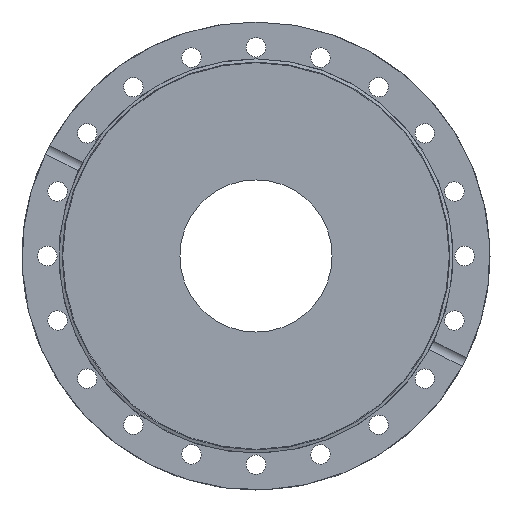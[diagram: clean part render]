
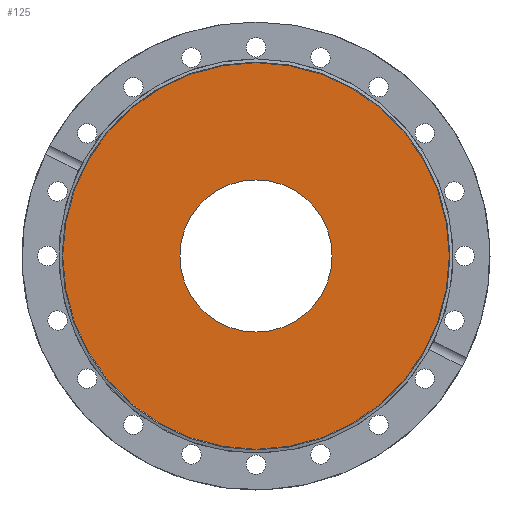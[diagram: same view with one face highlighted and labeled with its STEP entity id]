
A CAD part, left-side view. The second image highlights one B-rep face of the part: STEP entity #125.
In plain terms, the highlighted planar face has unit normal (-1, 0, 0).
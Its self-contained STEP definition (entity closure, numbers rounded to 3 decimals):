
#125 = ADVANCED_FACE( '', ( #298, #299 ), #300, .F. );
#298 = FACE_BOUND( '', #545, .T. );
#299 = FACE_OUTER_BOUND( '', #546, .T. );
#300 = PLANE( '', #547 );
#545 = EDGE_LOOP( '', ( #848 ) );
#546 = EDGE_LOOP( '', ( #849 ) );
#547 = AXIS2_PLACEMENT_3D( '', #850, #851, #852 );
#848 = ORIENTED_EDGE( '', *, *, #1122, .F. );
#849 = ORIENTED_EDGE( '', *, *, #1106, .T. );
#850 = CARTESIAN_POINT( '', ( -21., 0., 83.835 ) );
#851 = DIRECTION( '', ( 1., 0., 0. ) );
#852 = DIRECTION( '', ( 0., 0., -1. ) );
#1106 = EDGE_CURVE( '', #1279, #1279, #1280, .T. );
#1122 = EDGE_CURVE( '', #1303, #1303, #1304, .T. );
#1279 = VERTEX_POINT( '', #1518 );
#1280 = CIRCLE( '', #1519, 83.835 );
#1303 = VERTEX_POINT( '', #1578 );
#1304 = CIRCLE( '', #1579, 33. );
#1518 = CARTESIAN_POINT( '', ( -21., 0., 83.835 ) );
#1519 = AXIS2_PLACEMENT_3D( '', #1773, #1774, #1775 );
#1578 = CARTESIAN_POINT( '', ( -21., 0., 33. ) );
#1579 = AXIS2_PLACEMENT_3D( '', #1793, #1794, #1795 );
#1773 = CARTESIAN_POINT( '', ( -21., 0., 0. ) );
#1774 = DIRECTION( '', ( -1., 0., 0. ) );
#1775 = DIRECTION( '', ( 0., 0., 1. ) );
#1793 = CARTESIAN_POINT( '', ( -21., 0., 0. ) );
#1794 = DIRECTION( '', ( -1., 0., 0. ) );
#1795 = DIRECTION( '', ( 0., 0., 1. ) );
